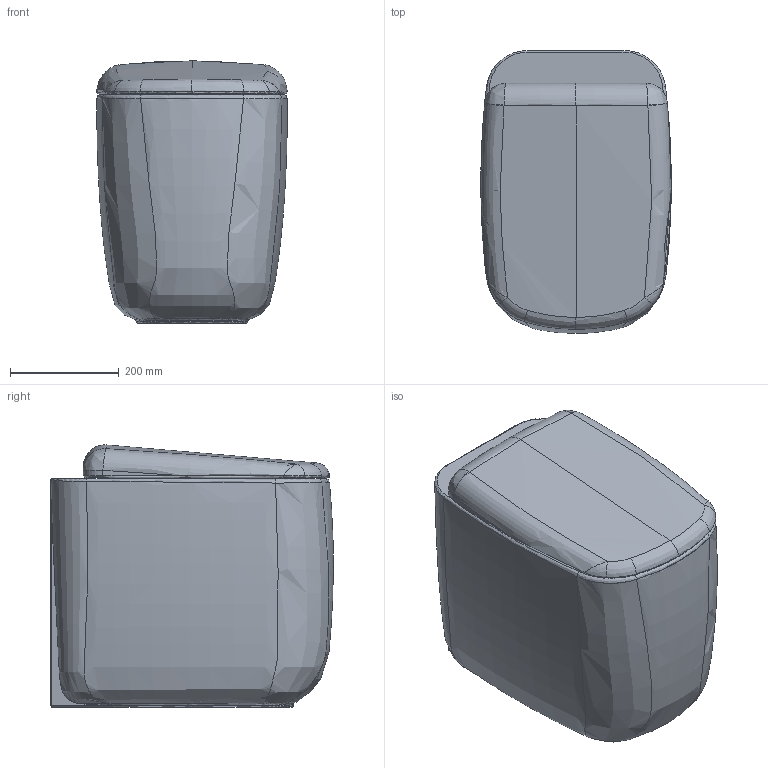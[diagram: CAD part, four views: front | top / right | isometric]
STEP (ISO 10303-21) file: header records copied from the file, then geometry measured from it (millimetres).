
FILE_DESCRIPTION(/* description */ (''),/* implementation_level */ '2;1');
FILE_NAME(/* name */ 'MN117S',/* time_stamp */ '2023-03-17T09:24:42+01:00',/* author */ (''),/* organization */ (''),/* preprocessor_version */ 'ST-DEVELOPER v16.5',/* originating_system */ 'Rhino 7.27',/* authorisation */ '');
FILE_SCHEMA (('CONFIG_CONTROL_DESIGN'));
Length unit declared in the file: millimetre
Products named in the file (1): Document
Bounding box: 350.39 x 519.94 x 482.09 mm (x, y, z)
Volume: 6050305 mm3; surface area: 1306337.1 mm2
Topology: 1 solids, 2 shells, 108 faces, 264 edges, 148 vertices
Faces by surface type: bspline 85, cylinder 14, plane 9
Entity records: 56933 total; most frequent: CARTESIAN_POINT 55277, ORIENTED_EDGE 498, EDGE_CURVE 260, B_SPLINE_CURVE_WITH_KNOTS 201, VERTEX_POINT 148, EDGE_LOOP 109, ADVANCED_FACE 108, FACE_OUTER_BOUND 108
